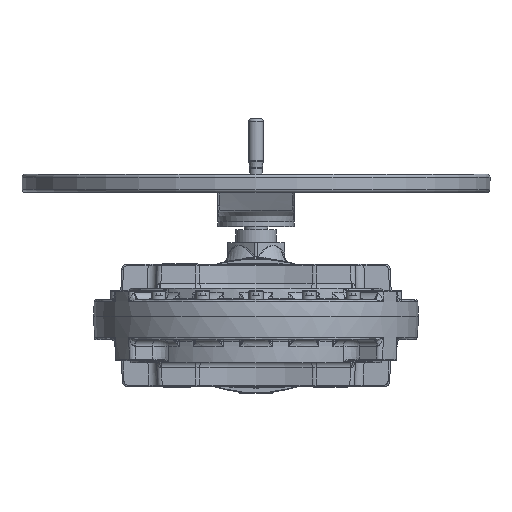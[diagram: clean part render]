
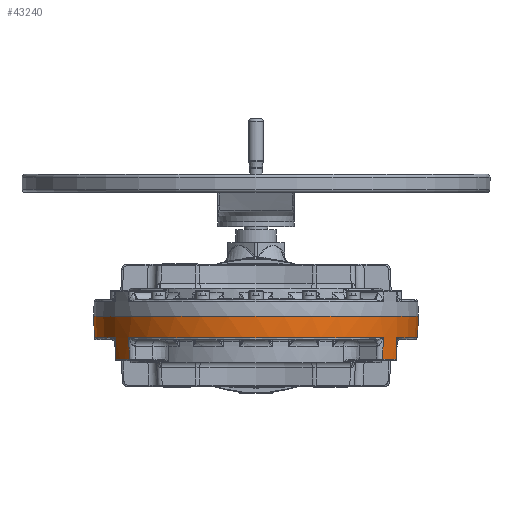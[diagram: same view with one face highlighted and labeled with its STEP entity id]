
A CAD part, front view. The second image highlights one B-rep face of the part: STEP entity #43240.
In plain terms, the highlighted conical face has half-angle 2 degrees and reference radius 277.5 mm.
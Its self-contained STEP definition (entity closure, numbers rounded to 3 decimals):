
#1045 = DIRECTION ( 'NONE',  ( 0., 0., 1. ) ) ;
#4403 = EDGE_CURVE ( 'NONE', #82645, #71991, #133122, .T. ) ;
#7904 = ORIENTED_EDGE ( 'NONE', *, *, #31939, .T. ) ;
#8643 = CARTESIAN_POINT ( 'NONE',  ( -218.56, -170.99, 0. ) ) ;
#12331 = EDGE_CURVE ( 'NONE', #98101, #15061, #90840, .T. ) ;
#15061 = VERTEX_POINT ( 'NONE', #110534 ) ;
#16400 = VERTEX_POINT ( 'NONE', #73244 ) ;
#18849 = CARTESIAN_POINT ( 'NONE',  ( -241.614, -136.488, 0. ) ) ;
#20503 = CIRCLE ( 'NONE', #110922, 274.93 ) ;
#20818 = ORIENTED_EDGE ( 'NONE', *, *, #92801, .T. ) ;
#21582 = CARTESIAN_POINT ( 'NONE',  ( 277.5, 0., 0. ) ) ;
#21985 = EDGE_LOOP ( 'NONE', ( #139913, #7904, #157669, #164193, #20818, #132137, #58185, #62836, #44625, #138715, #82505, #60790 ) ) ;
#22556 = DIRECTION ( 'NONE',  ( 0., 0., 1. ) ) ;
#24655 = DIRECTION ( 'NONE',  ( 0., 0., 1. ) ) ;
#26503 = CIRCLE ( 'NONE', #112150, 276.204 ) ;
#27263 = CARTESIAN_POINT ( 'NONE',  ( -276.204, 0., -37.105 ) ) ;
#28024 = VERTEX_POINT ( 'NONE', #130763 ) ;
#28397 = LINE ( 'NONE', #155938, #96091 ) ;
#29857 = EDGE_CURVE ( 'NONE', #98101, #28024, #20503, .T. ) ;
#30734 = EDGE_CURVE ( 'NONE', #107613, #152922, #163267, .T. ) ;
#31939 = EDGE_CURVE ( 'NONE', #152922, #137687, #49338, .T. ) ;
#36296 = AXIS2_PLACEMENT_3D ( 'NONE', #123631, #47427, #136401 ) ;
#36888 = AXIS2_PLACEMENT_3D ( 'NONE', #98752, #22556, #111598 ) ;
#43240 = ADVANCED_FACE ( 'NONE', ( #110862 ), #90830, .T. ) ;
#44184 = CARTESIAN_POINT ( 'NONE',  ( 277.5, 0., 0. ) ) ;
#44625 = ORIENTED_EDGE ( 'NONE', *, *, #124964, .T. ) ;
#45174 = CARTESIAN_POINT ( 'NONE',  ( 0., 0., -37.105 ) ) ;
#45375 = VECTOR ( 'NONE', #97798, 1000. ) ;
#45754 = AXIS2_PLACEMENT_3D ( 'NONE', #127593, #51389, #140426 ) ;
#47427 = DIRECTION ( 'NONE',  ( 0., 0., 1. ) ) ;
#49338 = LINE ( 'NONE', #21582, #45375 ) ;
#50515 = CARTESIAN_POINT ( 'NONE',  ( -277.5, 0., 0. ) ) ;
#51389 = DIRECTION ( 'NONE',  ( 0., 0., 1. ) ) ;
#57880 = DIRECTION ( 'NONE',  ( 1., 0., 0. ) ) ;
#58185 = ORIENTED_EDGE ( 'NONE', *, *, #29857, .T. ) ;
#59891 = CIRCLE ( 'NONE', #45754, 276.204 ) ;
#60790 = ORIENTED_EDGE ( 'NONE', *, *, #102215, .T. ) ;
#61514 = EDGE_CURVE ( 'NONE', #102228, #164296, #28397, .T. ) ;
#62836 = ORIENTED_EDGE ( 'NONE', *, *, #151029, .T. ) ;
#68723 = CARTESIAN_POINT ( 'NONE',  ( -217.54, -170.192, -37.105 ) ) ;
#70813 = LINE ( 'NONE', #151974, #130529 ) ;
#71991 = VERTEX_POINT ( 'NONE', #122870 ) ;
#73244 = CARTESIAN_POINT ( 'NONE',  ( 239.376, -135.224, -73.605 ) ) ;
#73415 = AXIS2_PLACEMENT_3D ( 'NONE', #100903, #24655, #164845 ) ;
#75071 = CIRCLE ( 'NONE', #36888, 277.5 ) ;
#75956 = CARTESIAN_POINT ( 'NONE',  ( 0., 0., -37.105 ) ) ;
#77295 = CARTESIAN_POINT ( 'NONE',  ( 0., 0., -73.605 ) ) ;
#82505 = ORIENTED_EDGE ( 'NONE', *, *, #103620, .T. ) ;
#82645 = VERTEX_POINT ( 'NONE', #27263 ) ;
#86849 = VECTOR ( 'NONE', #107920, 1000. ) ;
#88769 = DIRECTION ( 'NONE',  ( 1., 0., 0. ) ) ;
#89018 = DIRECTION ( 'NONE',  ( 0.03, -0.017, 0.999 ) ) ;
#90089 = DIRECTION ( 'NONE',  ( 1., 0., 0. ) ) ;
#90830 = CONICAL_SURFACE ( 'NONE', #73415, 277.5, 0.035 ) ;
#90840 = LINE ( 'NONE', #18849, #86849 ) ;
#91962 = LINE ( 'NONE', #8643, #155718 ) ;
#92801 = EDGE_CURVE ( 'NONE', #82645, #15061, #59891, .T. ) ;
#96091 = VECTOR ( 'NONE', #104705, 1000. ) ;
#97798 = DIRECTION ( 'NONE',  ( 0.035, 0., 0.999 ) ) ;
#98101 = VERTEX_POINT ( 'NONE', #153506 ) ;
#98752 = CARTESIAN_POINT ( 'NONE',  ( 0., 0., 0. ) ) ;
#100903 = CARTESIAN_POINT ( 'NONE',  ( 0., 0., 0. ) ) ;
#101854 = CARTESIAN_POINT ( 'NONE',  ( 216.536, -169.406, -73.605 ) ) ;
#102215 = EDGE_CURVE ( 'NONE', #16400, #107613, #70813, .T. ) ;
#102228 = VERTEX_POINT ( 'NONE', #101854 ) ;
#102908 = VERTEX_POINT ( 'NONE', #68723 ) ;
#103620 = EDGE_CURVE ( 'NONE', #102228, #16400, #119191, .T. ) ;
#104705 = DIRECTION ( 'NONE',  ( 0.027, -0.022, 0.999 ) ) ;
#107613 = VERTEX_POINT ( 'NONE', #116447 ) ;
#107920 = DIRECTION ( 'NONE',  ( -0.03, -0.017, 0.999 ) ) ;
#110534 = CARTESIAN_POINT ( 'NONE',  ( -240.486, -135.851, -37.105 ) ) ;
#110862 = FACE_OUTER_BOUND ( 'NONE', #21985, .T. ) ;
#110922 = AXIS2_PLACEMENT_3D ( 'NONE', #77295, #1045, #90089 ) ;
#111598 = DIRECTION ( 'NONE',  ( 1., 0., 0. ) ) ;
#112150 = AXIS2_PLACEMENT_3D ( 'NONE', #45174, #134132, #57880 ) ;
#116447 = CARTESIAN_POINT ( 'NONE',  ( 240.486, -135.851, -37.105 ) ) ;
#119191 = CIRCLE ( 'NONE', #36296, 274.93 ) ;
#122870 = CARTESIAN_POINT ( 'NONE',  ( -277.5, 0., 0. ) ) ;
#123631 = CARTESIAN_POINT ( 'NONE',  ( 0., 0., -73.605 ) ) ;
#124344 = CARTESIAN_POINT ( 'NONE',  ( 276.204, 0., -37.105 ) ) ;
#124964 = EDGE_CURVE ( 'NONE', #102908, #164296, #26503, .T. ) ;
#127593 = CARTESIAN_POINT ( 'NONE',  ( 0., 0., -37.105 ) ) ;
#129150 = VECTOR ( 'NONE', #151761, 1000. ) ;
#130529 = VECTOR ( 'NONE', #89018, 1000. ) ;
#130763 = CARTESIAN_POINT ( 'NONE',  ( -216.536, -169.406, -73.605 ) ) ;
#132137 = ORIENTED_EDGE ( 'NONE', *, *, #12331, .F. ) ;
#133122 = LINE ( 'NONE', #50515, #129150 ) ;
#133811 = EDGE_CURVE ( 'NONE', #71991, #137687, #75071, .T. ) ;
#134132 = DIRECTION ( 'NONE',  ( 0., 0., 1. ) ) ;
#136401 = DIRECTION ( 'NONE',  ( 1., 0., 0. ) ) ;
#137183 = DIRECTION ( 'NONE',  ( -0.027, -0.022, 0.999 ) ) ;
#137687 = VERTEX_POINT ( 'NONE', #44184 ) ;
#138715 = ORIENTED_EDGE ( 'NONE', *, *, #61514, .F. ) ;
#139913 = ORIENTED_EDGE ( 'NONE', *, *, #30734, .T. ) ;
#140426 = DIRECTION ( 'NONE',  ( 1., 0., 0. ) ) ;
#140883 = CARTESIAN_POINT ( 'NONE',  ( 217.54, -170.192, -37.105 ) ) ;
#151029 = EDGE_CURVE ( 'NONE', #28024, #102908, #91962, .T. ) ;
#151761 = DIRECTION ( 'NONE',  ( -0.035, 0., 0.999 ) ) ;
#151965 = AXIS2_PLACEMENT_3D ( 'NONE', #75956, #165030, #88769 ) ;
#151974 = CARTESIAN_POINT ( 'NONE',  ( 241.614, -136.488, 0. ) ) ;
#152922 = VERTEX_POINT ( 'NONE', #124344 ) ;
#153506 = CARTESIAN_POINT ( 'NONE',  ( -239.376, -135.224, -73.605 ) ) ;
#155718 = VECTOR ( 'NONE', #137183, 1000. ) ;
#155938 = CARTESIAN_POINT ( 'NONE',  ( 218.56, -170.99, 0. ) ) ;
#157669 = ORIENTED_EDGE ( 'NONE', *, *, #133811, .F. ) ;
#163267 = CIRCLE ( 'NONE', #151965, 276.204 ) ;
#164193 = ORIENTED_EDGE ( 'NONE', *, *, #4403, .F. ) ;
#164296 = VERTEX_POINT ( 'NONE', #140883 ) ;
#164845 = DIRECTION ( 'NONE',  ( -1., 0., 0. ) ) ;
#165030 = DIRECTION ( 'NONE',  ( 0., 0., 1. ) ) ;
